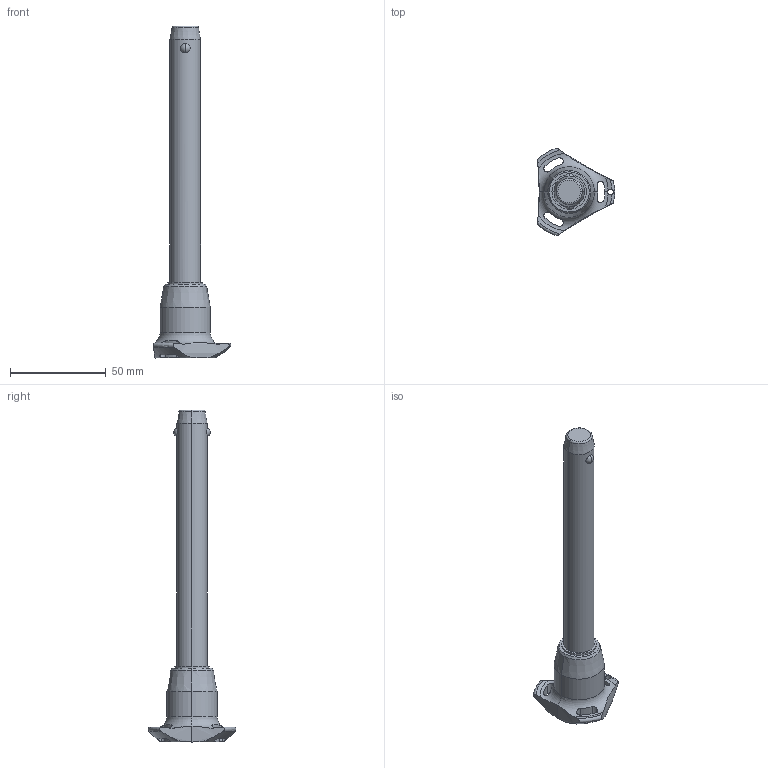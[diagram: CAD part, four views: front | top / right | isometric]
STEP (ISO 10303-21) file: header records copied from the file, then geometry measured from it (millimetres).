
FILE_DESCRIPTION (( 'STEP AP203' ), '1' );
FILE_NAME ('QR1704.M16-120-S.step', '2025-11-12T09:32:01', ( '' ), ( '' ), 'SwSTEP 2.0', 'SolidWorks 2019', '' );
FILE_SCHEMA (( 'CONFIG_CONTROL_DESIGN' ));
Length unit declared in the file: millimetre
Products named in the file (1): QR1704.M16-120-S
Bounding box: 40.5 x 45.88 x 173.7 mm (x, y, z)
Volume: 49224.1 mm3; surface area: 12690.4 mm2
Topology: 1 solids, 1 shells, 65 faces, 178 edges, 113 vertices
Faces by surface type: cylinder 30, cone 14, torus 11, sphere 6, plane 4
Entity records: 2870 total; most frequent: CARTESIAN_POINT 1181, ORIENTED_EDGE 356, DIRECTION 329, EDGE_CURVE 178, AXIS2_PLACEMENT_3D 147, VERTEX_POINT 113, CIRCLE 81, EDGE_LOOP 71
